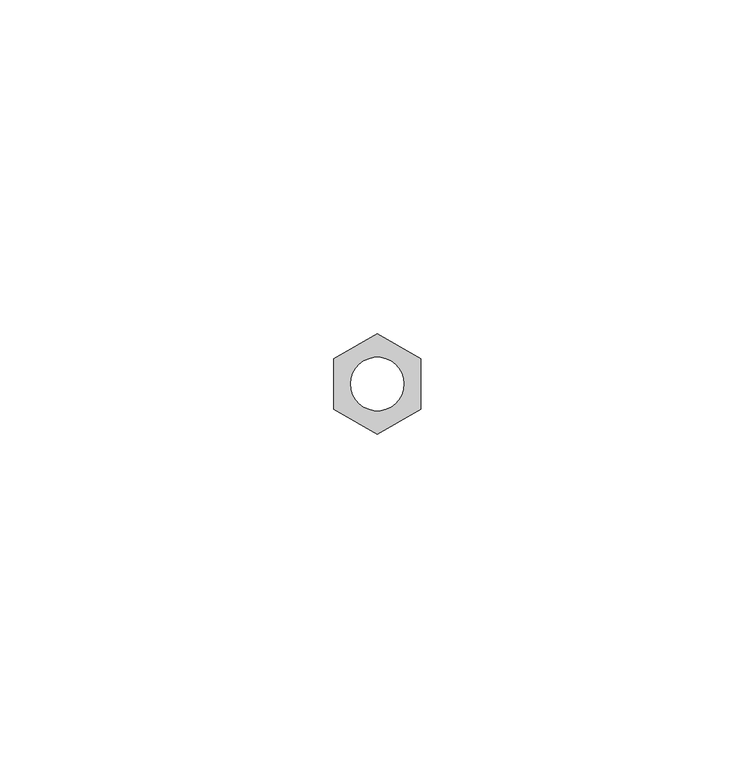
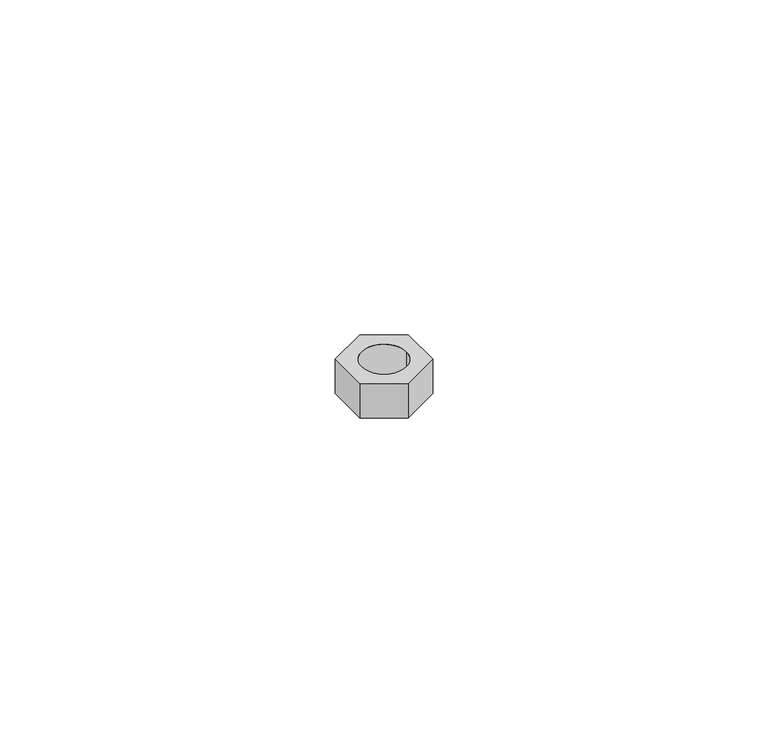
"""IFC4 building model written with IfcOpenShell, lengths in millimetres: fastener geometry, REC_A_M8 : REC_A_M8."""

from ifc_helpers import new_model, si_unit, point, origin, origin_with_axes, origin_2d, place, context, project, spatial, polyline, circle_curve, trimmed, segment, composite_curve, outline, extrude, source, transform, mapped, element, save


def fastener_ba79c72f(model_context):
    return source(origin(), model_context, "Body", "SweptSolid", [
        extrude(outline(polyline([(-6.5, 3.7527767), (0.0, 7.5055535), (6.5, 3.7527767), (6.5, -3.7527767), (0.0, -7.5055535), (-6.5, -3.7527767), (-6.5, 3.7527767)]), holes=[composite_curve([segment(trimmed(circle_curve(origin_2d(), 4.0), [point((-4.0, 0.0))], [point((4.0, 0.0))], True, "CARTESIAN"), True, "CONTINUOUS"), segment(trimmed(circle_curve(origin_2d(), 4.0), [point((4.0, 0.0))], [point((-4.0, 0.0))], True, "CARTESIAN"), True, "CONTINUOUS")], self_intersect=False)]), origin_with_axes(), (0.0, 0.0, 1.0), 6.5),
    ])


if __name__ == "__main__":
    model = new_model("IFC4")
    model_context = context("Model", 3, world=origin())
    ifc_project = project(units=[si_unit("LENGTHUNIT", "METRE", prefix="MILLI")], contexts=[model_context])
    site = spatial("IfcSite", under=ifc_project)
    building = spatial("IfcBuilding", under=site)
    placement = place(None, origin())
    fastener_shape = fastener_ba79c72f(model_context)
    element("IfcFastener", 1, ObjectType="REC_A_M8 : REC_A_M8", at=placement, inside=building, context=model_context, shape_type="MappedRepresentation", body=[
        mapped(fastener_shape, transform((0.0, 0.0, 0.0), x_axis=(1.0, 0.0, 0.0), y_axis=(0.0, 1.0, 0.0), z_axis=(0.0, 0.0, 1.0))),
    ])
    save(model, "model.ifc")
